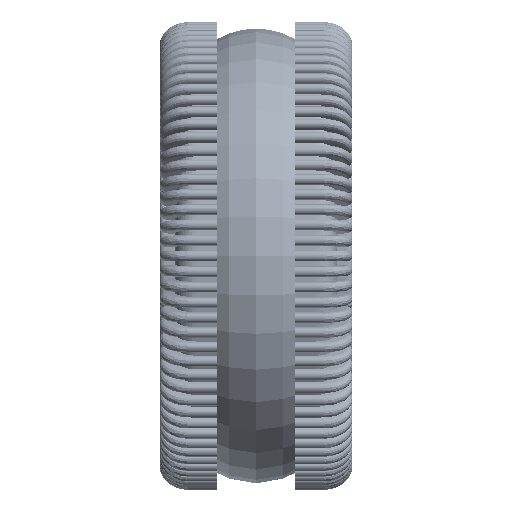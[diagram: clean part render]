
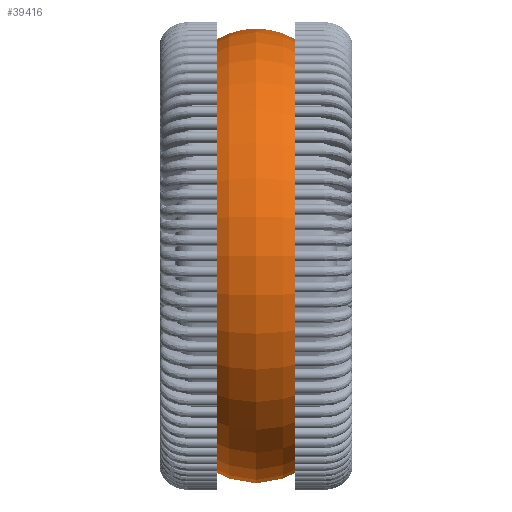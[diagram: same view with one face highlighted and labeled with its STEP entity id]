
A CAD part, left-side view. The second image highlights one B-rep face of the part: STEP entity #39416.
In plain terms, the highlighted toroidal (fillet/blend) face has major radius 28.719 mm and minor radius 15 mm.
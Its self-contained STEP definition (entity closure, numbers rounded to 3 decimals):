
#392=TOROIDAL_SURFACE('',#44019,28.719,15.);
#3083=CIRCLE('',#44018,41.717);
#3084=CIRCLE('',#44020,41.717);
#3085=CIRCLE('',#44021,15.);
#6652=FACE_OUTER_BOUND('',#9127,.T.);
#9127=EDGE_LOOP('',(#36328,#36329,#36330,#36331));
#18910=VERTEX_POINT('',#81349);
#18911=VERTEX_POINT('',#81353);
#24721=EDGE_CURVE('',#18910,#18910,#3083,.T.);
#24723=EDGE_CURVE('',#18911,#18911,#3084,.T.);
#24724=EDGE_CURVE('',#18911,#18910,#3085,.T.);
#36328=ORIENTED_EDGE('',*,*,#24723,.F.);
#36329=ORIENTED_EDGE('',*,*,#24724,.T.);
#36330=ORIENTED_EDGE('',*,*,#24721,.T.);
#36331=ORIENTED_EDGE('',*,*,#24724,.F.);
#39416=ADVANCED_FACE('',(#6652),#392,.T.);
#44018=AXIS2_PLACEMENT_3D('',#81350,#55839,#55840);
#44019=AXIS2_PLACEMENT_3D('',#81352,#55842,#55843);
#44020=AXIS2_PLACEMENT_3D('',#81354,#55844,#55845);
#44021=AXIS2_PLACEMENT_3D('',#81355,#55846,#55847);
#55839=DIRECTION('center_axis',(0.,1.,0.));
#55840=DIRECTION('ref_axis',(1.,0.,0.));
#55842=DIRECTION('center_axis',(0.,1.,0.));
#55843=DIRECTION('ref_axis',(0.,0.,1.));
#55844=DIRECTION('center_axis',(0.,1.,0.));
#55845=DIRECTION('ref_axis',(1.,0.,0.));
#55846=DIRECTION('center_axis',(-1.,0.,0.));
#55847=DIRECTION('ref_axis',(0.,0.,-1.));
#81349=CARTESIAN_POINT('',(0.,2.525,-41.717));
#81350=CARTESIAN_POINT('Origin',(0.,2.525,0.));
#81352=CARTESIAN_POINT('Origin',(0.,10.013,0.));
#81353=CARTESIAN_POINT('',(0.,17.5,-41.717));
#81354=CARTESIAN_POINT('Origin',(0.,17.5,0.));
#81355=CARTESIAN_POINT('Origin',(0.,10.013,-28.719));
